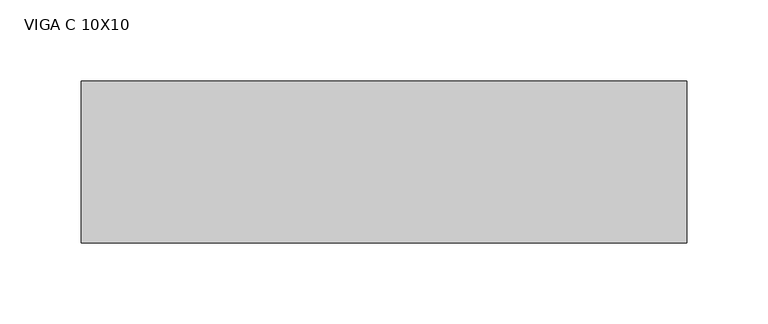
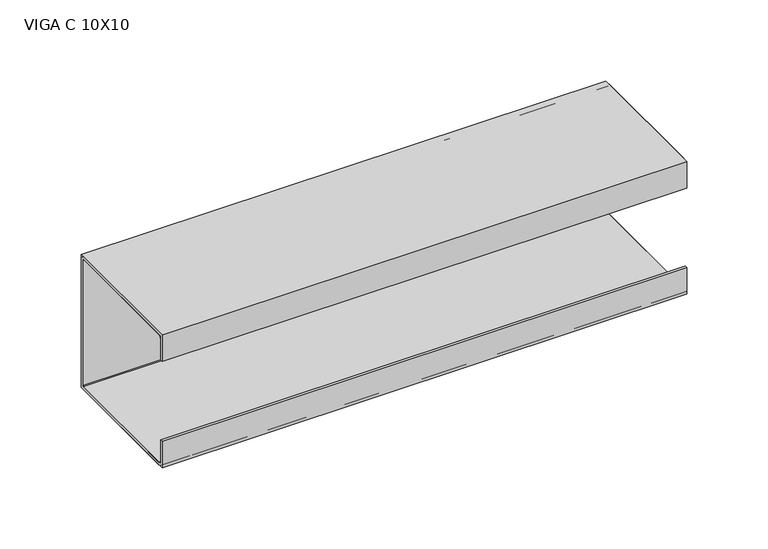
"""IFC4 building model written with IfcOpenShell, lengths in millimetres: beam geometry, VIGA PERFIL C AÇO : VIGA C 10X10."""

from ifc_helpers import new_model, si_unit, point, frame, frame_2d, origin, place, context, project, spatial, polyline, circle_curve, trimmed, segment, composite_curve, outline, extrude, source, transform, mapped, element, save


def viga_c_10x10_dc3e690e(model_context):
    return source(origin(), model_context, "Body", "SweptSolid", [
        extrude(outline(polyline([(9.2, -50.0), (-90.8, -50.0), (-90.8, -30.0), (-88.9, -30.0), (-88.9, -48.1), (7.3, -48.1), (7.3, 48.1), (-88.9, 48.1), (-88.9, 30.0), (-90.8, 30.0), (-90.8, 50.0), (9.2, 50.0), (9.2, -50.0)])), frame((-187.0, 0.0, 0.0), z_axis=(1.0, 0.0, 0.0), x_axis=(0.0, 1.0, 0.0)), (0.0, 0.0, 1.0), 374.0),
        extrude(outline(composite_curve([segment(trimmed(circle_curve(frame_2d((5.4, -46.2)), 3.8), [point((9.2, -46.2))], [point((5.4, -50.0))], False, "CARTESIAN"), True, "CONTINUOUS"), segment(polyline([(5.4, -50.0), (-87.0, -50.0)]), True, "CONTINUOUS"), segment(trimmed(circle_curve(frame_2d((-87.0, -46.2)), 3.8), [point((-87.0, -50.0))], [point((-90.8, -46.2))], False, "CARTESIAN"), True, "CONTINUOUS"), segment(polyline([(-90.8, -46.2), (-90.8, -30.0), (-88.9, -30.0), (-88.9, -46.2)]), True, "CONTINUOUS"), segment(trimmed(circle_curve(frame_2d((-87.0, -46.2)), 1.9), [point((-88.9, -46.2))], [point((-87.0, -48.1))], True, "CARTESIAN"), True, "CONTINUOUS"), segment(polyline([(-87.0, -48.1), (5.4, -48.1)]), True, "CONTINUOUS"), segment(trimmed(circle_curve(frame_2d((5.4, -46.2)), 1.9), [point((5.4, -48.1))], [point((7.3, -46.2))], True, "CARTESIAN"), True, "CONTINUOUS"), segment(polyline([(7.3, -46.2), (7.3, 46.2)]), True, "CONTINUOUS"), segment(trimmed(circle_curve(frame_2d((5.4, 46.2)), 1.9), [point((7.3, 46.2))], [point((5.4, 48.1))], True, "CARTESIAN"), True, "CONTINUOUS"), segment(polyline([(5.4, 48.1), (-87.0, 48.1)]), True, "CONTINUOUS"), segment(trimmed(circle_curve(frame_2d((-87.0, 46.2)), 1.9), [point((-87.0, 48.1))], [point((-88.9, 46.2))], True, "CARTESIAN"), True, "CONTINUOUS"), segment(polyline([(-88.9, 46.2), (-88.9, 30.0), (-90.8, 30.0), (-90.8, 46.2)]), True, "CONTINUOUS"), segment(trimmed(circle_curve(frame_2d((-87.0, 46.2)), 3.8), [point((-90.8, 46.2))], [point((-87.0, 50.0))], False, "CARTESIAN"), True, "CONTINUOUS"), segment(polyline([(-87.0, 50.0), (5.4, 50.0)]), True, "CONTINUOUS"), segment(trimmed(circle_curve(frame_2d((5.4, 46.2)), 3.8), [point((5.4, 50.0))], [point((9.2, 46.2))], False, "CARTESIAN"), True, "CONTINUOUS"), segment(polyline([(9.2, 46.2), (9.2, -46.2)]), True, "CONTINUOUS")], self_intersect=False)), frame((-187.0, 0.0, 0.0), z_axis=(1.0, 0.0, 0.0), x_axis=(0.0, 1.0, 0.0)), (0.0, 0.0, 1.0), 374.0),
    ])


if __name__ == "__main__":
    model = new_model("IFC4")
    model_context = context("Model", 3, world=origin())
    ifc_project = project(units=[si_unit("LENGTHUNIT", "METRE", prefix="MILLI")], contexts=[model_context])
    site = spatial("IfcSite", under=ifc_project)
    building = spatial("IfcBuilding", under=site)
    placement = place(None, origin())
    viga_c_10x10_shape = viga_c_10x10_dc3e690e(model_context)
    element("IfcBeam", 1, ObjectType="VIGA PERFIL C AÇO : VIGA C 10X10", at=placement, inside=building, context=model_context, shape_type="MappedRepresentation", body=[
        mapped(viga_c_10x10_shape, transform((0.0, 0.0, 0.0), x_axis=(1.0, 0.0, 0.0), y_axis=(0.0, 1.0, 0.0), z_axis=(0.0, 0.0, 1.0))),
    ])
    save(model, "model.ifc")
